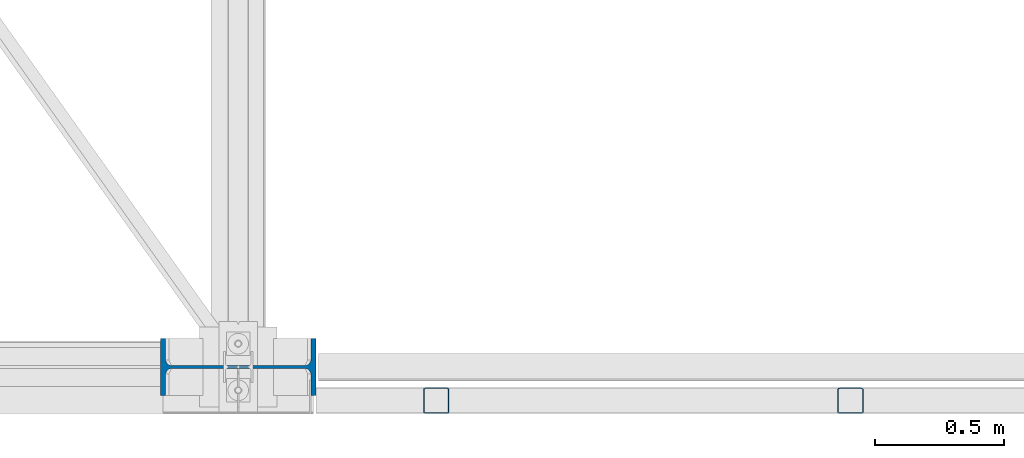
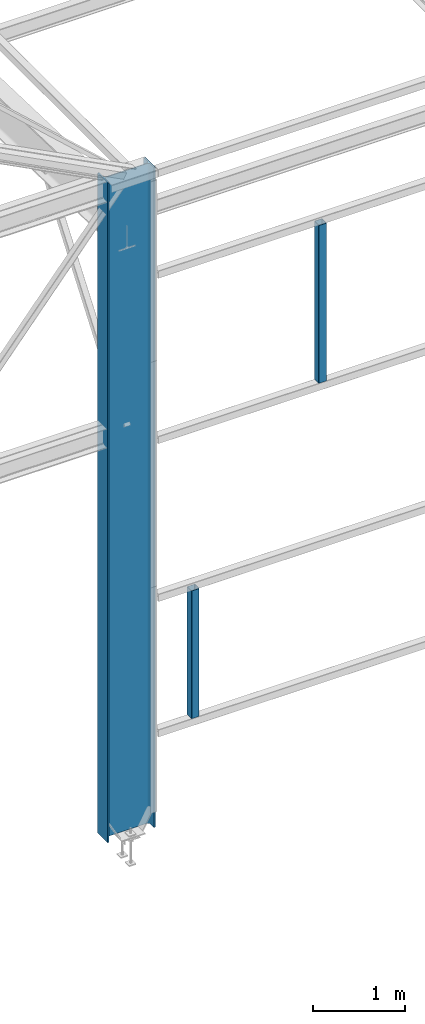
# One storey, part 8 of 123: 3 columns, 3 elements without a shape of their own.
"""IFC2X3 building model written with IfcOpenShell, lengths in millimetres."""

from ifc_helpers import new_model, si_unit, frame, origin_with_axes, origin_2d_with_axis, place, context, subcontext, project, spatial, hollow_rectangle, i_section, extrude, material, type_object, element, aggregate, save


model = new_model("IFC2X3")

# Units and contexts
model_context = context("Model", 3, precision=1e-05, world=origin_with_axes())
body_context = subcontext(model_context, "Body", "Model", "MODEL_VIEW")
ifc_project = project(units=[si_unit("LENGTHUNIT", "METRE", prefix="MILLI"), si_unit("AREAUNIT", "SQUARE_METRE"), si_unit("VOLUMEUNIT", "CUBIC_METRE"), si_unit("MASSUNIT", "GRAM", prefix="KILO"), si_unit("TIMEUNIT", "SECOND"), si_unit("PLANEANGLEUNIT", "RADIAN"), si_unit("SOLIDANGLEUNIT", "STERADIAN"), si_unit("THERMODYNAMICTEMPERATUREUNIT", "DEGREE_CELSIUS"), si_unit("LUMINOUSINTENSITYUNIT", "LUMEN")], contexts=[model_context])

# Site, building, storey
site_placement = place(None, origin_with_axes())
site = spatial("IfcSite", under=ifc_project, at=site_placement, Name="Undefined", CompositionType="ELEMENT")
building_placement = place(site_placement, origin_with_axes())
building = spatial("IfcBuilding", under=site, at=building_placement, Name="Undefined", CompositionType="ELEMENT")
storey_placement = place(building_placement, origin_with_axes())
storey = spatial("IfcBuildingStorey", under=building, at=storey_placement, Name="Undefined", CompositionType="ELEMENT", Elevation=0.0)

# Assembly, column
assembly_1_placement = place(storey_placement, origin_with_axes())
assembly_1 = element("IfcElementAssembly", 1, at=assembly_1_placement, inside=storey, Name="Steel Assembly", AssemblyPlace="NOTDEFINED", PredefinedType="RIGID_FRAME")
ifc_material_1 = material(Name="STEEL/S235-E24")
column_type_1 = type_object("IfcColumnType", Name="TUBE-C-100*100*4", PredefinedType="NOTDEFINED")
column_1_placement = place(assembly_1_placement, frame((31244.9999996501, -129.999769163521, 4999.99999999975), z_axis=(0.0, 0.0, 1.0), x_axis=(0.0, 1.0, 0.0)))
column_1 = element("IfcColumn", 2, at=column_1_placement, type_object=column_type_1, material=ifc_material_1, Name="MONTANT", ObjectType="TUBE-C-100*100*4", context=body_context, shape_type="SweptSolid", body=[
    extrude(hollow_rectangle(XDim=100.0, YDim=100.0, WallThickness=4.0, InnerFilletRadius=4.0, OuterFilletRadius=8.0, at=origin_2d_with_axis()), frame((0.0, 0.0, 2100.0), z_axis=(0.0, 0.0, -1.0), x_axis=(0.0, 1.0, 0.0)), (0.0, 0.0, 1.0), 2100.0),
])
aggregate(assembly_1, [column_1])

assembly_2_placement = place(storey_placement, origin_with_axes())
assembly_2 = element("IfcElementAssembly", 3, at=assembly_2_placement, inside=storey, Name="Steel Assembly", AssemblyPlace="NOTDEFINED", PredefinedType="RIGID_FRAME")
column_2_placement = place(assembly_2_placement, frame((29644.99999965, -129.999780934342, 1099.99999999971), z_axis=(0.0, 0.0, 1.0), x_axis=(0.0, 1.0, 0.0)))
column_2 = element("IfcColumn", 4, at=column_2_placement, type_object=column_type_1, material=ifc_material_1, Name="MONTANT", ObjectType="TUBE-C-100*100*4", context=body_context, shape_type="SweptSolid", body=[
    extrude(hollow_rectangle(XDim=100.0, YDim=100.0, WallThickness=4.0, InnerFilletRadius=4.0, OuterFilletRadius=8.0, at=origin_2d_with_axis()), frame((0.0, 0.0, 1700.0), z_axis=(0.0, 0.0, -1.0), x_axis=(0.0, 1.0, 0.0)), (0.0, 0.0, 1.0), 1700.0),
])
aggregate(assembly_2, [column_2])

assembly_3_placement = place(storey_placement, origin_with_axes())
assembly_3 = element("IfcElementAssembly", 5, at=assembly_3_placement, inside=storey, Name="Steel Assembly", AssemblyPlace="NOTDEFINED", PredefinedType="RIGID_FRAME")
ifc_material_2 = material(Name="STEEL/S275-E28")
column_type_2 = type_object("IfcColumnType", Name="IPE600", PredefinedType="NOTDEFINED")
column_3_placement = place(assembly_3_placement, frame((28880.0, 0.0, -235.0), z_axis=(0.0, 0.0, 1.0), x_axis=(-1.0, 0.0, 0.0)))
column_3 = element("IfcColumn", 6, at=column_3_placement, type_object=column_type_2, material=ifc_material_2, Name="POTEAU", ObjectType="IPE600", context=body_context, shape_type="SweptSolid", body=[
    extrude(i_section(OverallWidth=220.0, OverallDepth=600.0, WebThickness=12.0, FlangeThickness=19.0, FilletRadius=24.0, at=origin_2d_with_axis()), frame((0.0, 0.0, 8775.0), z_axis=(0.0, 0.0, -1.0), x_axis=(0.0, 1.0, 0.0)), (0.0, 0.0, 1.0), 8775.0),
])
aggregate(assembly_3, [column_3])

save(model, "model.ifc")
